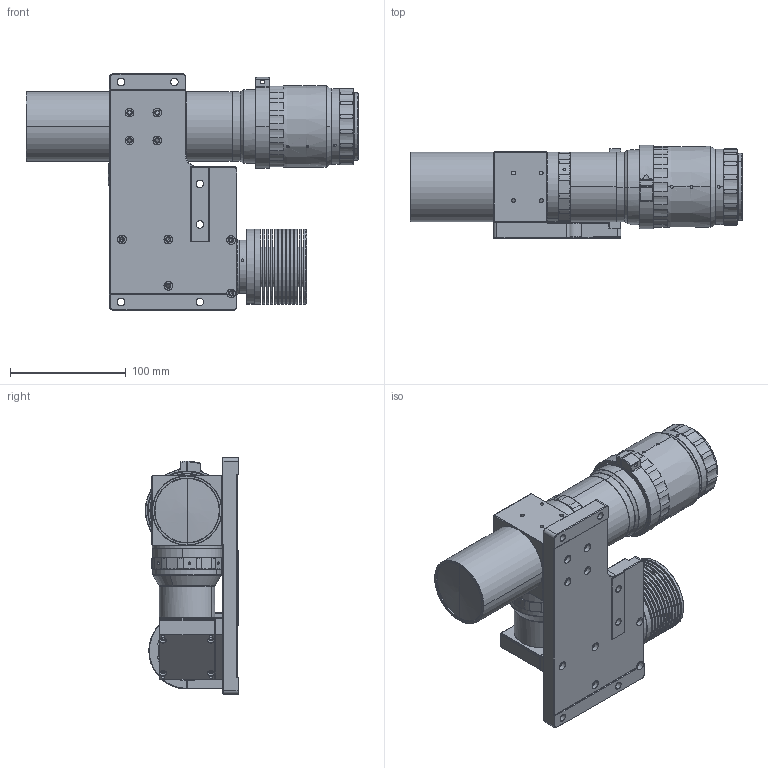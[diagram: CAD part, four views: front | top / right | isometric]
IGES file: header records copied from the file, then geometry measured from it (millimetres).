
Start section: SolidWorks IGES file using analytic representation for surfaces
Bounding box: 286.51 x 80.5 x 204 mm (x, y, z)
Surface area: 240225.6 mm2 (no closed solid volume)
Topology: 0 solids, 0 shells, 1364 faces, 22244 edges, 22214 vertices
Faces by surface type: revolution 912, bspline 452
